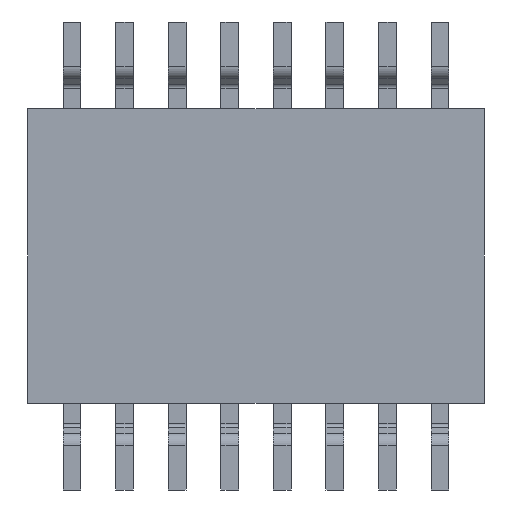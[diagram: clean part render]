
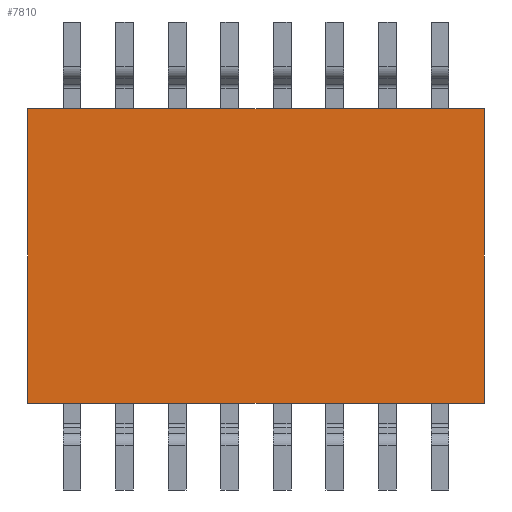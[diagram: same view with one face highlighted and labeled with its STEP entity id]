
A CAD part, front view. The second image highlights one B-rep face of the part: STEP entity #7810.
In plain terms, the highlighted planar face has unit normal (0, -1, 0).
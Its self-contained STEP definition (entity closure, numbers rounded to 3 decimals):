
#7653 = CARTESIAN_POINT ( 'NONE',  ( -5.51, 0.25, -3.55 ) ) ;
#7654 = VERTEX_POINT ( 'NONE', #7653 ) ;
#7655 = CARTESIAN_POINT ( 'NONE',  ( -5.51, 0.25, 3.55 ) ) ;
#7656 = VERTEX_POINT ( 'NONE', #7655 ) ;
#7657 = CARTESIAN_POINT ( 'NONE',  ( -5.51, 0.25, 3.55 ) ) ;
#7658 = DIRECTION ( 'NONE',  ( 0., 0., 1. ) ) ;
#7659 = VECTOR ( 'NONE', #7658, 1000. ) ;
#7660 = LINE ( 'NONE', #7657, #7659 ) ;
#7661 = EDGE_CURVE ( 'NONE', #7654, #7656, #7660, .T. ) ;
#7693 = CARTESIAN_POINT ( 'NONE',  ( 5.51, 0.25, 3.55 ) ) ;
#7694 = VERTEX_POINT ( 'NONE', #7693 ) ;
#7695 = CARTESIAN_POINT ( 'NONE',  ( 5.51, 0.25, 3.55 ) ) ;
#7696 = DIRECTION ( 'NONE',  ( 1., 0., 0. ) ) ;
#7697 = VECTOR ( 'NONE', #7696, 1000. ) ;
#7698 = LINE ( 'NONE', #7695, #7697 ) ;
#7699 = EDGE_CURVE ( 'NONE', #7656, #7694, #7698, .T. ) ;
#7724 = CARTESIAN_POINT ( 'NONE',  ( 5.51, 0.25, -3.55 ) ) ;
#7725 = VERTEX_POINT ( 'NONE', #7724 ) ;
#7726 = CARTESIAN_POINT ( 'NONE',  ( 5.51, 0.25, 3.55 ) ) ;
#7727 = DIRECTION ( 'NONE',  ( 0., 0., -1. ) ) ;
#7728 = VECTOR ( 'NONE', #7727, 1000. ) ;
#7729 = LINE ( 'NONE', #7726, #7728 ) ;
#7730 = EDGE_CURVE ( 'NONE', #7694, #7725, #7729, .T. ) ;
#7755 = CARTESIAN_POINT ( 'NONE',  ( 5.51, 0.25, -3.55 ) ) ;
#7756 = DIRECTION ( 'NONE',  ( -1., 0., 0. ) ) ;
#7757 = VECTOR ( 'NONE', #7756, 1000. ) ;
#7758 = LINE ( 'NONE', #7755, #7757 ) ;
#7759 = EDGE_CURVE ( 'NONE', #7725, #7654, #7758, .T. ) ;
#7799 = ORIENTED_EDGE ( 'NONE', *, *, #7661, .F. ) ;
#7800 = ORIENTED_EDGE ( 'NONE', *, *, #7759, .F. ) ;
#7801 = ORIENTED_EDGE ( 'NONE', *, *, #7730, .F. ) ;
#7802 = ORIENTED_EDGE ( 'NONE', *, *, #7699, .F. ) ;
#7803 = EDGE_LOOP ( 'NONE', ( #7799, #7800, #7801, #7802 ) ) ;
#7804 = FACE_OUTER_BOUND ( 'NONE', #7803, .T. ) ;
#7805 = CARTESIAN_POINT ( 'NONE',  ( 0., 0.25, 0. ) ) ;
#7806 = DIRECTION ( 'NONE',  ( 0., 1., 0. ) ) ;
#7807 = DIRECTION ( 'NONE',  ( 0., 0., 1. ) ) ;
#7808 = AXIS2_PLACEMENT_3D ( 'NONE', #7805, #7806, #7807 ) ;
#7809 = PLANE ( 'NONE', #7808 ) ;
#7810 = ADVANCED_FACE ( 'NONE', ( #7804 ), #7809, .F. ) ;
